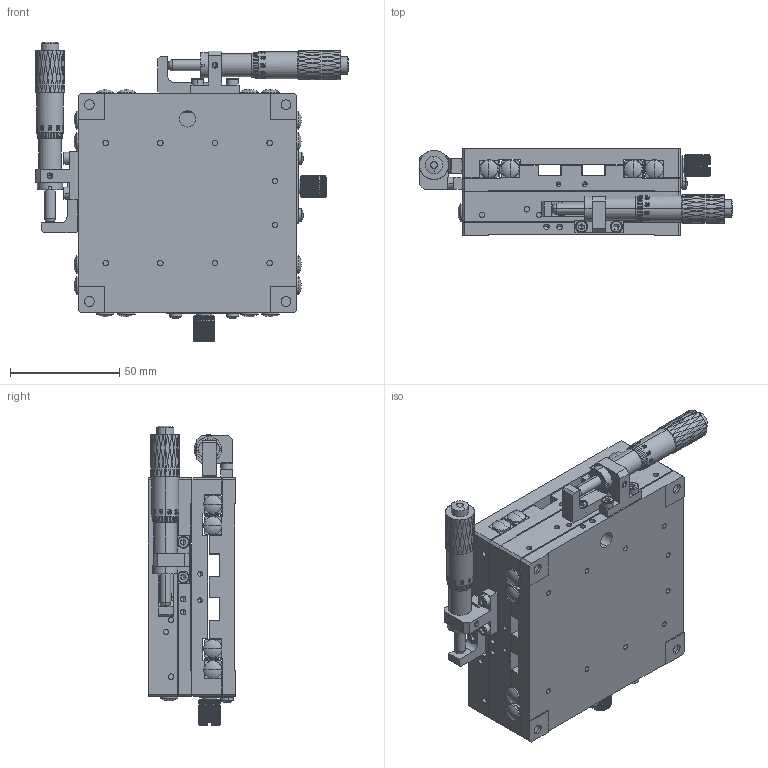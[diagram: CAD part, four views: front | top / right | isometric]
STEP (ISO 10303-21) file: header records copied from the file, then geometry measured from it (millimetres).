
FILE_DESCRIPTION (( 'STEP AP203' ), '1' );
FILE_NAME ('BPB100.STEP', '2023-12-02T03:16:21', ( 'China' ), ( 'Microsoft' ), 'SwSTEP 2.0', 'SolidWorks 2024', '' );
FILE_SCHEMA (( 'CONFIG_CONTROL_DESIGN' ));
Products named in the file (1): BPB100
Bounding box: 143.25 x 40 x 137.1 mm (x, y, z)
Volume: 361402.1 mm3; surface area: 173553 mm2
Topology: 44 solids, 44 shells, 4612 faces, 12054 edges, 7690 vertices
Faces by surface type: plane 1484, cylinder 1228, bspline 1128, cone 708, torus 52, sphere 12
Entity records: 231367 total; most frequent: CARTESIAN_POINT 129067, ORIENTED_EDGE 23860, DIRECTION 16664, EDGE_CURVE 11930, VERTEX_POINT 7690, AXIS2_PLACEMENT_3D 6123, EDGE_LOOP 5440, FACE_OUTER_BOUND 4612
